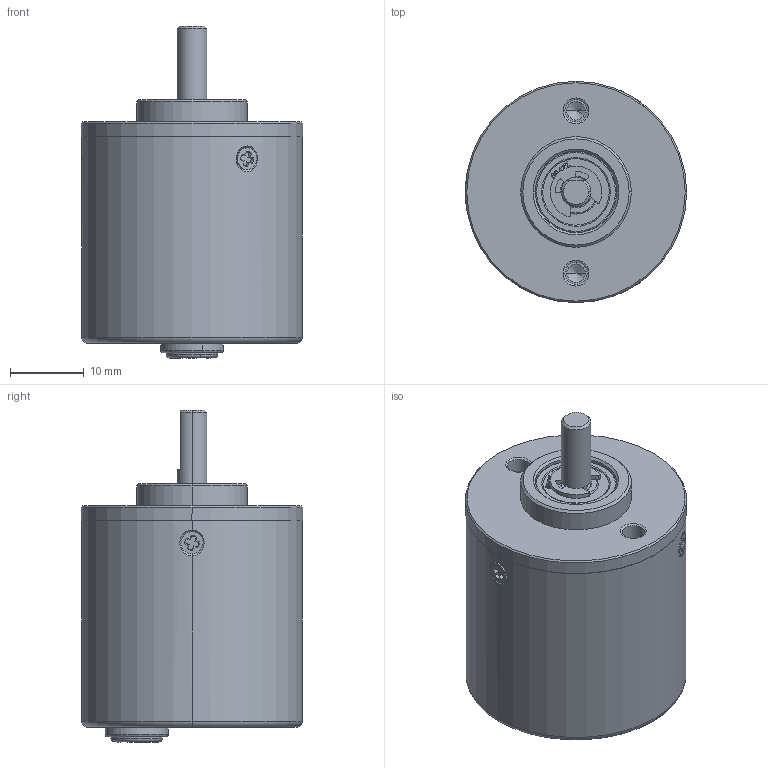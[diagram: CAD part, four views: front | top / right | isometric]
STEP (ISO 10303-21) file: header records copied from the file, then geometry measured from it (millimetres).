
FILE_DESCRIPTION (( 'STEP AP203' ), '1' );
FILE_NAME ('B-ZSP3004.STEP', '2021-07-21T06:45:44', ( 'Windows 蚚誧' ), ( '' ), 'SwSTEP 2.0', 'SolidWorks 2018', '' );
FILE_SCHEMA (( 'CONFIG_CONTROL_DESIGN' ));
Length unit declared in the file: millimetre
Products named in the file (15): 12-7.01-2011; 694ZZ; 开口挡圈GBT896_3_GBT896_3; 07-4H8.5-2017; 10.50.16奻啣; 08-4L4-2017; 10.50.16啣; 03-30H28-2017; 06-4.01-2017; 02-4L32-2017; B-ZSP3004; 3004鎢攫200; 3004狫瑜200; M2X4小十字槽沉头螺钉; 01-30H24-2017
Assembly tree (17 placements, depth 3):
  B-ZSP3004
    01-30H24-2017
    694ZZ  x2
    07-4H8.5-2017
    08-4L4-2017
    03-30H28-2017
    02-4L32-2017
    3004鎢攫200
    3004狫瑜200
    M2X4小十字槽沉头螺钉  x3
    12-7.01-2011
    开口挡圈GBT896_3_GBT896_3
    10.50.16啣
      10.50.16奻啣
    06-4.01-2017
Bounding box: 30 x 30 x 45 mm (x, y, z)
Volume: 13208.5 mm3; surface area: 15618.7 mm2
Topology: 16 solids, 16 shells, 2455 faces, 6155 edges, 4038 vertices
Faces by surface type: plane 1159, cylinder 903, bspline 230, cone 98, torus 59, sphere 6
Entity records: 78173 total; most frequent: CARTESIAN_POINT 25533, ORIENTED_EDGE 10672, DIRECTION 10222, EDGE_CURVE 5336, AXIS2_PLACEMENT_3D 3527, VERTEX_POINT 3512, LINE 3168, VECTOR 3168
